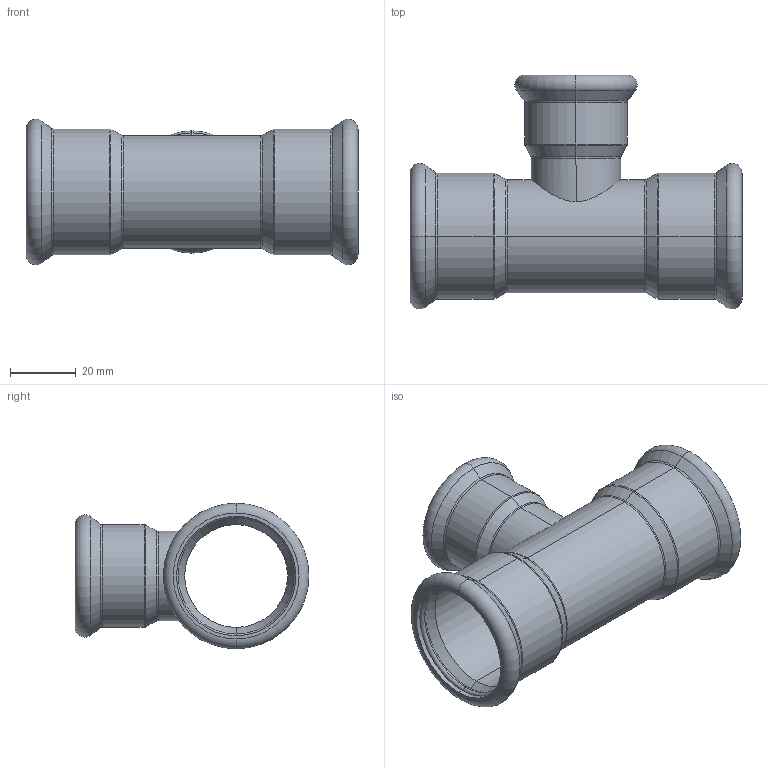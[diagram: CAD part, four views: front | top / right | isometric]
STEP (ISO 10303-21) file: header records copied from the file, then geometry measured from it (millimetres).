
FILE_DESCRIPTION (( 'STEP AP214' ), '1' );
FILE_NAME ('T35280R.STEP', '2025-08-18T00:51:16', ( '' ), ( '' ), 'SwSTEP 2.0', 'SolidWorks 2020', '' );
FILE_SCHEMA (( 'AUTOMOTIVE_DESIGN' ));
Length unit declared in the file: millimetre
Products named in the file (1): T35280R
Bounding box: 101 x 71.15 x 44.3 mm (x, y, z)
Volume: 23478.8 mm3; surface area: 32515 mm2
Topology: 4 solids, 4 shells, 98 faces, 198 edges, 106 vertices
Faces by surface type: torus 42, cylinder 26, cone 24, plane 6
Entity records: 3909 total; most frequent: CARTESIAN_POINT 619, DIRECTION 536, ORIENTED_EDGE 396, AXIS2_PLACEMENT_3D 243, EDGE_CURVE 198, CIRCLE 144, VERTEX_POINT 106, EDGE_LOOP 106
